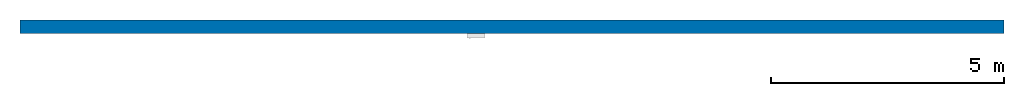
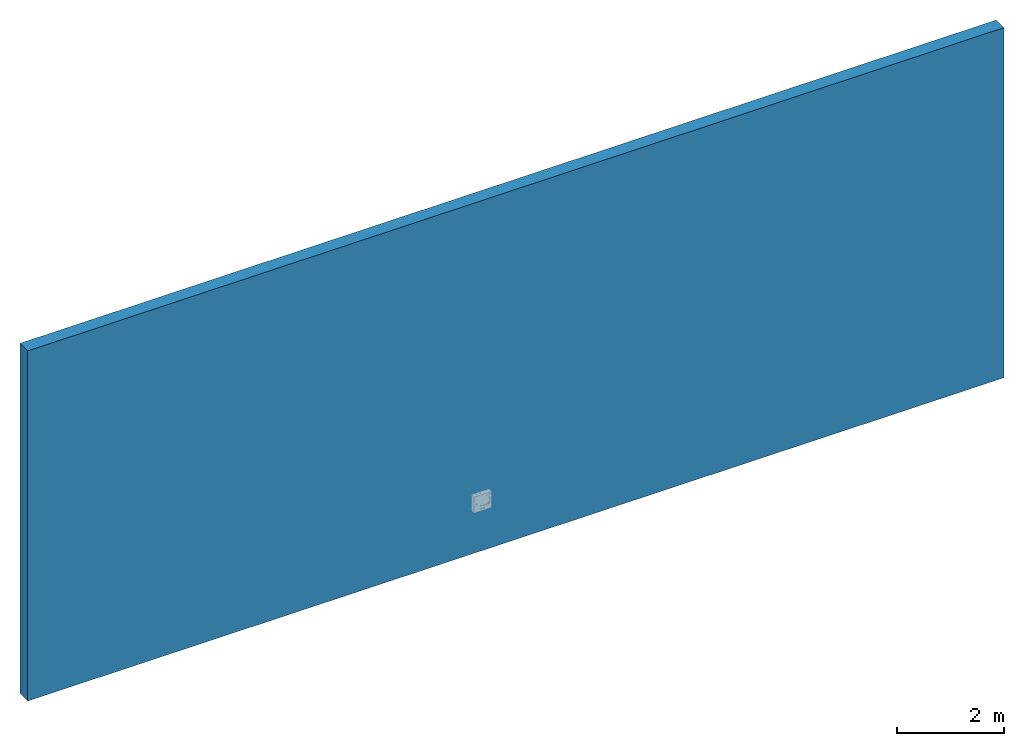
# One storey, incomplete: 1 wall.
"""IFC2X3 building model written with IfcOpenShell, lengths in millimetres."""

import ifcopenshell
import ifcopenshell.guid

model = None  # the IFC model being written
_history = None  # IfcOwnerHistory: only IFC2X3 demands one
_inside = {}  # id of a spatial element -> (the spatial element, [elements in it])
_under = {}  # id of a project, library or spatial element -> (it, [spatial elements below it])
_declared = {}  # id of a project -> (the project, [libraries it declares])
_typed = {}  # id of a type object -> (the type object, [elements of that type])
_made_of = {}  # id of a material, layer set ... -> (it, [elements and type objects made of it])


def new_model(schema):
    """Start an empty IFC model of exactly this schema.

    Asked for "IFC4X3", IfcOpenShell would pick the latest addendum, in which some entities
    have other attributes; the version numbers below select the first issue.
    IFC2X3 requires an IfcOwnerHistory on every rooted entity: one is made here for all.
    """
    global model, _history
    if schema == "IFC4X3":
        model = ifcopenshell.file(schema_version=(4, 3, 0, 0))
    else:
        model = ifcopenshell.file(schema=schema)
    _inside.clear()
    _under.clear()
    _declared.clear()
    _typed.clear()
    _made_of.clear()
    _history = None
    if model.schema == "IFC2X3":
        org = make("IfcOrganization", Name="unknown")
        user = make(
            "IfcPersonAndOrganization",
            ThePerson=make("IfcPerson", FamilyName="unknown"),
            TheOrganization=org,
        )
        app = make(
            "IfcApplication",
            ApplicationDeveloper=org,
            Version="unknown",
            ApplicationFullName="unknown",
            ApplicationIdentifier="unknown",
        )
        _history = make(
            "IfcOwnerHistory",
            OwningUser=user,
            OwningApplication=app,
            ChangeAction="ADDED",
            CreationDate=0,
        )
    return model


def make(cls, **values):
    """One entity of the class cls with the attributes given. An attribute that is None is left unset."""
    return model.create_entity(
        cls, **{name: value for name, value in values.items() if value is not None}
    )


def entity(cls, *values):
    """Any entity or typed value of the class cls, its attributes in the order of the schema. None: left unset."""
    e = model.create_entity(cls)
    for i, value in enumerate(values):
        if value is not None:
            e[i] = value
    return e


def rooted(cls, **values):
    """An entity with a GlobalId (a new one), such as an element, a storey or a relation."""
    return make(cls, GlobalId=ifcopenshell.guid.new(), OwnerHistory=_history, **values)


def si_unit(unit_type, name, prefix=None):
    """IfcSIUnit, for example si_unit("LENGTHUNIT", "METRE", prefix="MILLI")."""
    return make("IfcSIUnit", UnitType=unit_type, Prefix=prefix, Name=name)


def converted_unit(unit_type, name, factor, base, dimensions=None, offset=None):
    """IfcConversionBasedUnit, such as the inch: factor (a typed value) times the base unit."""
    return make(
        "IfcConversionBasedUnit"
        if offset is None
        else "IfcConversionBasedUnitWithOffset",
        ConversionOffset=offset,
        Dimensions=None
        if dimensions is None
        else entity("IfcDimensionalExponents", *dimensions),
        UnitType=unit_type,
        Name=name,
        ConversionFactor=make(
            "IfcMeasureWithUnit", ValueComponent=factor, UnitComponent=base
        ),
    )


def derived_unit(unit_type, elements):
    """IfcDerivedUnit: a product of units, each with its exponent."""
    return make(
        "IfcDerivedUnit",
        Elements=[
            make("IfcDerivedUnitElement", Unit=unit, Exponent=power)
            for unit, power in elements
        ],
        UnitType=unit_type,
    )


def assignment(units):
    """IfcUnitAssignment: the units of a project."""
    return None if units is None else make("IfcUnitAssignment", Units=units)


def point(xyz):
    """IfcCartesianPoint."""
    return None if xyz is None else make("IfcCartesianPoint", Coordinates=xyz)


def direction(xyz):
    """IfcDirection."""
    return None if xyz is None else make("IfcDirection", DirectionRatios=xyz)


def frame(location, z_axis=None, x_axis=None):
    """IfcAxis2Placement3D, a coordinate frame: its origin and axes. An axis left out is left unset."""
    return make(
        "IfcAxis2Placement3D",
        Location=point(location),
        Axis=direction(z_axis),
        RefDirection=direction(x_axis),
    )


def frame_2d(location, x_axis=None):
    """IfcAxis2Placement2D, a coordinate frame in the plane: its origin and x axis."""
    return make(
        "IfcAxis2Placement2D", Location=point(location), RefDirection=direction(x_axis)
    )


def origin():
    """The frame at (0, 0, 0) with its axes left unset."""
    return frame((0.0, 0.0, 0.0))


def place(relative_to, where):
    """IfcLocalPlacement: puts the frame where relative to a parent placement (None: the world)."""
    return make(
        "IfcLocalPlacement", PlacementRelTo=relative_to, RelativePlacement=where
    )


def context(
    kind, dimensions, precision=None, world=None, true_north=None, identifier=None
):
    """IfcGeometricRepresentationContext, for example the 3D "Model" context."""
    return make(
        "IfcGeometricRepresentationContext",
        ContextIdentifier=identifier,
        ContextType=kind,
        CoordinateSpaceDimension=dimensions,
        Precision=precision,
        WorldCoordinateSystem=world,
        TrueNorth=true_north,
    )


def subcontext(parent, identifier, kind, view, scale=None):
    """IfcGeometricRepresentationSubContext, for example "Body" below "Model"."""
    return make(
        "IfcGeometricRepresentationSubContext",
        ContextIdentifier=identifier,
        ContextType=kind,
        ParentContext=parent,
        TargetScale=scale,
        TargetView=view,
    )


def project(units=None, contexts=None):
    """IfcProject with its units and contexts."""
    return rooted(
        "IfcProject",
        Name="project",
        RepresentationContexts=contexts,
        UnitsInContext=assignment(units),
    )


def spatial(cls, under=None, at=None, **own):
    """A site, building, storey or space (cls), placed at a placement, below another one or the project."""
    s = rooted(cls, ObjectPlacement=at, **own)
    if under is not None:
        _under.setdefault(under.id(), (under, []))[1].append(s)
    return s


def profile(cls, at=None, kind="AREA", **sizes):
    """A parametric profile (cls). Its sizes go by their IFC names, for example OverallWidth=200.0."""
    return make(cls, ProfileType=kind, Position=at, **sizes)


def rectangle(**sizes):
    """IfcRectangleProfileDef."""
    return profile("IfcRectangleProfileDef", **sizes)


def extrude(swept, where, along, depth):
    """IfcExtrudedAreaSolid: the profile swept, set in the frame where, extruded along a direction by depth."""
    return make(
        "IfcExtrudedAreaSolid",
        SweptArea=swept,
        Position=where,
        ExtrudedDirection=direction(along),
        Depth=depth,
    )


def shape(context_of_items, identifier, shape_type, items):
    """IfcShapeRepresentation: the items that make up one representation, for example the "Body"."""
    return make(
        "IfcShapeRepresentation",
        ContextOfItems=context_of_items,
        RepresentationIdentifier=identifier,
        RepresentationType=shape_type,
        Items=items,
    )


def material(Name=None, Category=None):
    """IfcMaterial."""
    return make("IfcMaterial", Name=Name, Category=Category)


def layer(
    of_material, thickness, ventilated=None, Name=None, Category=None, Priority=None
):
    """IfcMaterialLayer: one layer of a wall or slab, of a material (None: an air gap)."""
    return make(
        "IfcMaterialLayer",
        Material=of_material,
        LayerThickness=thickness,
        IsVentilated=ventilated,
        Name=Name,
        Category=Category,
        Priority=Priority,
    )


def layer_set(layers, Name=None):
    """IfcMaterialLayerSet."""
    return make("IfcMaterialLayerSet", MaterialLayers=layers, LayerSetName=Name)


def layer_usage(for_layer_set, set_direction, sense, offset, extent=None):
    """IfcMaterialLayerSetUsage: how a layer set lies in its element."""
    return make(
        "IfcMaterialLayerSetUsage",
        ForLayerSet=for_layer_set,
        LayerSetDirection=set_direction,
        DirectionSense=sense,
        OffsetFromReferenceLine=offset,
        ReferenceExtent=extent,
    )


def made_of(thing, what):
    """Note that an element or type object is made of a material, layer set ...; save() writes the relation."""
    if what is not None:
        _made_of.setdefault(what.id(), (what, []))[1].append(thing)
    return thing


def type_object(cls, material=None, **own):
    """A type object (cls), such as IfcWallType, which elements share."""
    return made_of(rooted(cls, **own), material)


def element(
    cls,
    number,
    at=None,
    inside=None,
    cuts=None,
    type_object=None,
    material=None,
    context=None,
    identifier="Body",
    shape_type=None,
    held_by="IfcProductDefinitionShape",
    body=None,
    shapes=None,
    **own,
):
    """One element of the class cls, such as IfcWall. Its Tag is "e" and its number.

    at: its placement. inside: the storey or other place that contains it. cuts: it is an
    opening in that element (IfcRelVoidsElement). A single representation is given by context,
    identifier, shape_type and body (its items); several are given by shapes. held_by: the class
    of the entity that holds the representations. save() writes the other relations.
    """
    e = rooted(cls, Tag="e%d" % number, ObjectPlacement=at, **own)
    if body is not None:
        shapes = [shape(context, identifier, shape_type, body)]
    if shapes is not None:
        e.Representation = make(held_by, Representations=shapes)
    if inside is not None:
        _inside.setdefault(inside.id(), (inside, []))[1].append(e)
    if cuts is not None:
        rooted(
            "IfcRelVoidsElement", RelatingBuildingElement=cuts, RelatedOpeningElement=e
        )
    if type_object is not None:
        _typed.setdefault(type_object.id(), (type_object, []))[1].append(e)
    return made_of(e, material)


def aggregate(whole, parts):
    """IfcRelAggregates: a whole, such as a stair, and the parts it consists of."""
    return rooted("IfcRelAggregates", RelatingObject=whole, RelatedObjects=parts)


def save(model, path):
    """Write the relations noted so far, then the file.

    IfcRelAggregates (storeys below a building ...), IfcRelContainedInSpatialStructure (elements
    in a storey), IfcRelDefinesByType, IfcRelAssociatesMaterial and IfcRelDeclares: one each for
    every whole, place, type object, material and project.
    """
    for whole, parts in _under.values():
        aggregate(whole, parts)
    for where, things in _inside.values():
        rooted(
            "IfcRelContainedInSpatialStructure",
            RelatedElements=things,
            RelatingStructure=where,
        )
    for kind, things in _typed.values():
        rooted("IfcRelDefinesByType", RelatedObjects=things, RelatingType=kind)
    for what, things in _made_of.values():
        rooted("IfcRelAssociatesMaterial", RelatedObjects=things, RelatingMaterial=what)
    for by, libraries in _declared.values():
        rooted("IfcRelDeclares", RelatingContext=by, RelatedDefinitions=libraries)
    model.write(path)


model = new_model("IFC2X3")

# Units and contexts
model_context = context("Model", 3, precision=1e-05, world=origin(), true_north=direction((2.0, 6.12303176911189e-17, 1.0)))
context_of_model = context(None, 3, precision=1e-05, world=origin(), true_north=direction((2.0, 6.12303176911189e-17, 1.0)))
body_context = subcontext(model_context, "Body", "Model", "MODEL_VIEW")
ifc_project = project(units=[si_unit("LENGTHUNIT", "METRE", prefix="MILLI"), si_unit("AREAUNIT", "SQUARE_METRE"), si_unit("VOLUMEUNIT", "CUBIC_METRE"), converted_unit("PLANEANGLEUNIT", "DEGREE", entity("IfcRatioMeasure", 0.0174532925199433), si_unit("PLANEANGLEUNIT", "RADIAN"), dimensions=[0, 0, 0, 0, 0, 0, 0]), si_unit("MASSUNIT", "GRAM", prefix="KILO"), si_unit("TIMEUNIT", "SECOND"), si_unit("THERMODYNAMICTEMPERATUREUNIT", "KELVIN"), derived_unit("THERMALTRANSMITTANCEUNIT", [(si_unit("MASSUNIT", "GRAM", prefix="KILO"), 1), (si_unit("THERMODYNAMICTEMPERATUREUNIT", "KELVIN"), -1), (si_unit("TIMEUNIT", "SECOND"), -3)]), derived_unit("VOLUMETRICFLOWRATEUNIT", [(si_unit("LENGTHUNIT", "METRE"), 3), (si_unit("TIMEUNIT", "SECOND"), -1)]), si_unit("POWERUNIT", "WATT")], contexts=[model_context, context_of_model])

# Site, building, storey
site_placement = place(None, origin())
site = spatial("IfcSite", under=ifc_project, at=site_placement, Name="Default", CompositionType="ELEMENT")
building_placement = place(site_placement, origin())
building = spatial("IfcBuilding", under=site, at=building_placement, CompositionType="ELEMENT")
storey_placement = place(building_placement, origin())
storey = spatial("IfcBuildingStorey", under=building, at=storey_placement, Name="Level 0", CompositionType="ELEMENT", Elevation=0.0)

# Wall
ifc_material_1 = material(Name="Brick, Common")
ifc_layer_1 = layer(ifc_material_1, 102.5)
ifc_material_2 = material(Name="Fiberglass Batt")
ifc_layer_2 = layer(ifc_material_2, 75.0)
ifc_material_3 = material(Name="Concrete Masonry Units")
ifc_layer_3 = layer(ifc_material_3, 100.0)
ifc_material_4 = material(Name="Gypsum Wall Board")
ifc_layer_4 = layer(ifc_material_4, 12.5)
ifc_layer_set = layer_set([ifc_layer_1, ifc_layer_2, ifc_layer_3, ifc_layer_4], Name="Basic Wall:Cav - 102 75i 100 p - Lwt")
ifc_layer_usage = layer_usage(ifc_layer_set, "AXIS2", "NEGATIVE", 145.0)
wall_type = type_object("IfcWallType", Name="Basic Wall:Cav - 102 75i 100 p - Lwt", PredefinedType="STANDARD", material=ifc_layer_set)
wall_placement = place(storey_placement, frame((-10242.4724812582, 5056.06103355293, 0.0)))
element("IfcWallStandardCase", 1, at=wall_placement, inside=storey, type_object=wall_type, material=ifc_layer_usage, Name="Basic Wall:Cav - 102 75i 100 p - Lwt", ObjectType="Basic Wall:Cav - 102 75i 100 p - Lwt", context=body_context, shape_type="SweptSolid", body=[
    extrude(rectangle(XDim=21100.0, YDim=289.999999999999, at=frame_2d((10550.0, 2.8421709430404e-14), x_axis=(-1.0, 0.0))), origin(), (0.0, 0.0, 1.0), 8000.0),
])

save(model, "model.ifc")
